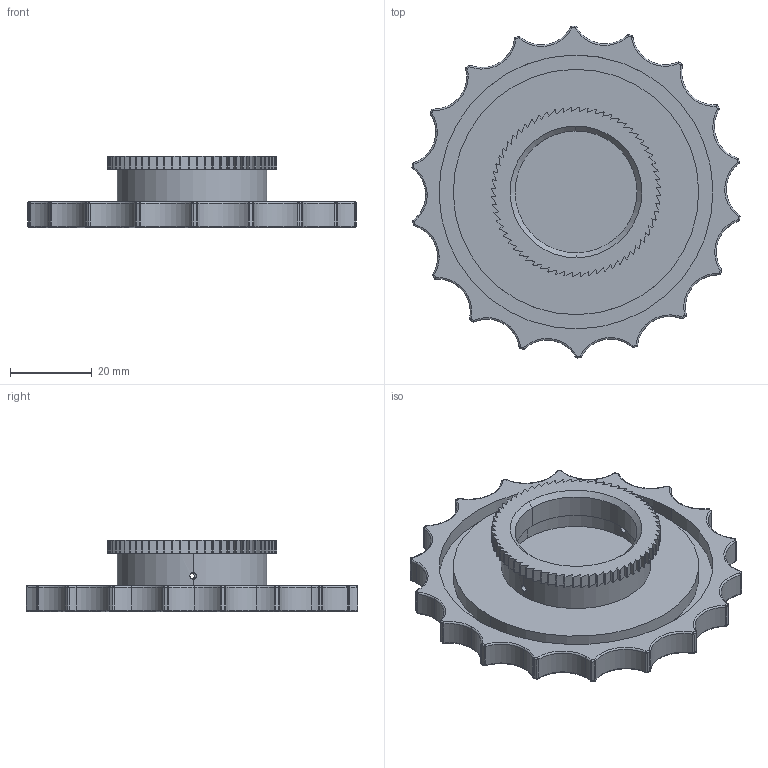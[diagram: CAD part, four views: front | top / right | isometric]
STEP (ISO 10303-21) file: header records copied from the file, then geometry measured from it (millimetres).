
FILE_DESCRIPTION (( 'STEP AP214' ), '1' );
FILE_NAME ('SPOOL_REV A.STEP', '2019-09-19T01:35:06', ( 'HP z420' ), ( '' ), 'SwSTEP 2.0', 'SolidWorks 2018', '' );
FILE_SCHEMA (( 'AUTOMOTIVE_DESIGN' ));
Length unit declared in the file: inch
Products named in the file (2): Spool; SPOOL_REV A
Assembly tree (1 placements, depth 2):
  SPOOL_REV A
    Spool
Bounding box: 80.07 x 80.97 x 17.44 mm (x, y, z)
Volume: 30157.7 mm3; surface area: 15598 mm2
Topology: 1 solids, 1 shells, 466 faces, 1181 edges, 696 vertices
Faces by surface type: cylinder 161, plane 135, sphere 84, torus 82, cone 4
Entity records: 13761 total; most frequent: DIRECTION 2631, CARTESIAN_POINT 2391, ORIENTED_EDGE 2266, EDGE_CURVE 1133, AXIS2_PLACEMENT_3D 1040, VERTEX_POINT 672, CIRCLE 570, LINE 551
